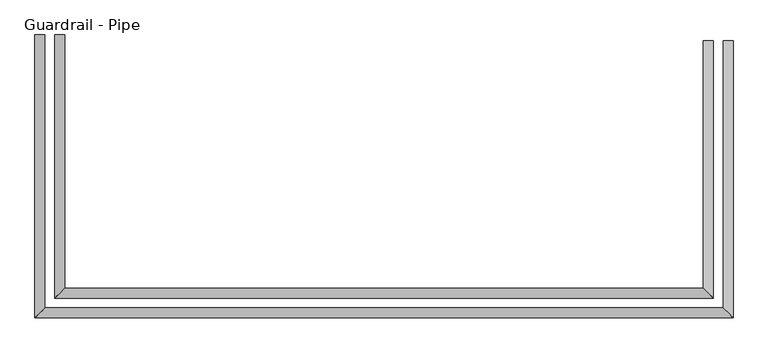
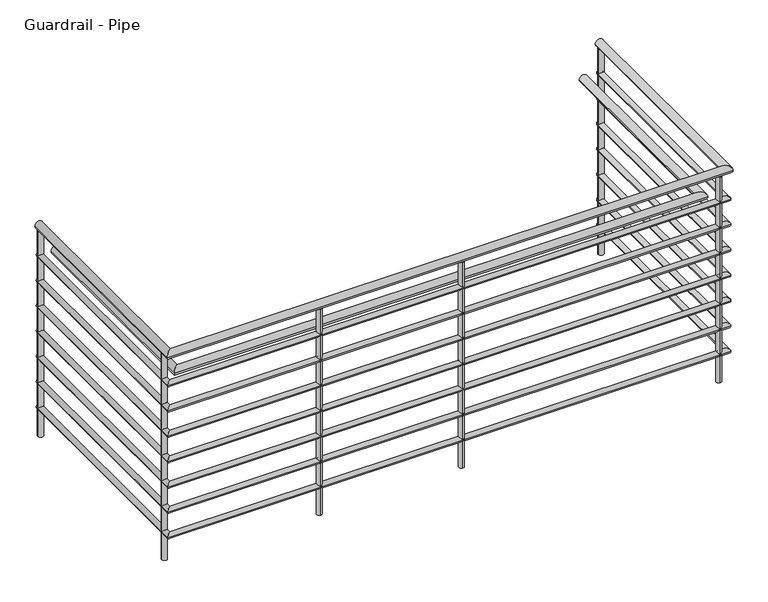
"""IFC4 building model written with IfcOpenShell, lengths in millimetres: railing geometry, Guardrail - Pipe."""

from ifc_helpers import new_model, si_unit, point, frame, frame_2d, origin, place, context, project, spatial, circle_curve, ellipse_curve, trimmed, segment, composite_curve, outline, extrude, source, transform, mapped, element, save
from ifc_brep_helpers import plane_surface, cylinder_surface, advanced_brep


def guardrail_pipe_96ed721d(model_context):
    return source(origin(), model_context, "Body", "SolidModel", [
        advanced_brep(
        [(-3673.2939612, -6967.115357, 8972.55), (-3635.1939612, -6967.115357, 8972.55), (-3673.2939612, -8052.965357, 8972.55), (-3635.1939612, -8014.865357, 8972.55), (-993.5939612, -8052.965357, 8972.55), (-1031.6939612, -8014.865357, 8972.55), (-993.5939612, -6989.340357, 8972.55), (-1031.6939612, -6989.340357, 8972.55)],
        [
            (0, 1, circle_curve(frame((-3654.2439612, -6967.115357, 8972.55), z_axis=(0.0, 1.0, 0.0), x_axis=(1.0, 0.0, 0.0)), 19.05)),
            (1, 0, circle_curve(frame((-3654.2439612, -6967.115357, 8972.55), z_axis=(0.0, 1.0, 0.0), x_axis=(1.0, 0.0, 0.0)), 19.05)),
            (0, 2),
            (2, 3, ellipse_curve(frame((-3654.2439612, -8033.915357, 8972.55), z_axis=(-0.7071067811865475, 0.7071067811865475, 0.0), x_axis=(0.7071067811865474, 0.7071067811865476, 0.0)), 26.9407684, 19.05)),
            (3, 1),
            (3, 2, ellipse_curve(frame((-3654.2439612, -8033.915357, 8972.55), z_axis=(-0.7071067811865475, 0.7071067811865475, 0.0), x_axis=(0.7071067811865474, 0.7071067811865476, 0.0)), 26.9407684, 19.05)),
            (2, 4),
            (4, 5, ellipse_curve(frame((-1012.6439612, -8033.915357, 8972.55), z_axis=(-0.7071067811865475, -0.7071067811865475, 0.0), x_axis=(-0.7071067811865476, 0.7071067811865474, 0.0)), 26.9407684, 19.05)),
            (5, 3),
            (5, 4, ellipse_curve(frame((-1012.6439612, -8033.915357, 8972.55), z_axis=(-0.7071067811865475, -0.7071067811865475, 0.0), x_axis=(-0.7071067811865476, 0.7071067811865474, 0.0)), 26.9407684, 19.05)),
            (6, 7, circle_curve(frame((-1012.6439612, -6989.340357, 8972.55), z_axis=(0.0, 1.0, 0.0), x_axis=(-1.0, 0.0, 0.0)), 19.05)),
            (7, 6, circle_curve(frame((-1012.6439612, -6989.340357, 8972.55), z_axis=(0.0, 1.0, 0.0), x_axis=(-1.0, 0.0, 0.0)), 19.05)),
            (4, 6),
            (7, 5),
        ],
        [
            plane_surface(frame((-3654.2439612, -6967.115357, 8991.6), z_axis=(0.0, 1.0, 0.0), x_axis=(0.0, 0.0, -1.0))),
            cylinder_surface(frame((-3654.2439612, -6967.115357, 8972.55), z_axis=(0.0, 1.0, 0.0), x_axis=(1.0, 0.0, 0.0)), 19.05),
            cylinder_surface(frame((-3654.2439612, -8033.915357, 8972.55), z_axis=(-1.0, 0.0, 0.0), x_axis=(0.0, 1.0, 0.0)), 19.05),
            plane_surface(frame((-1012.6439612, -6989.340357, 8991.6), z_axis=(0.0, 1.0, 0.0), x_axis=(0.0, 0.0, 1.0))),
            cylinder_surface(frame((-1012.6439612, -8033.915357, 8972.55), z_axis=(0.0, -1.0, 0.0), x_axis=(-1.0, 0.0, 0.0)), 19.05),
        ],
        [
            (0, [[1, 2]]),
            (1, [[-1, 3, 4, 5]]),
            (1, [[-2, -5, 6, -3]]),
            (2, [[-4, 7, 8, 9]]),
            (2, [[-6, -9, 10, -7]]),
            (3, [[11, 12]]),
            (4, [[-8, 13, -12, 14]]),
            (4, [[-10, -14, -11, -13]]),
        ],
    ),
        advanced_brep(
        [(-3666.9439612, -6967.115357, 8826.5), (-3641.5439612, -6967.115357, 8826.5), (-3666.9439612, -8046.615357, 8826.5), (-3641.5439612, -8021.215357, 8826.5), (-999.9439612, -8046.615357, 8826.5), (-1025.3439612, -8021.215357, 8826.5), (-999.9439612, -6989.340357, 8826.5), (-1025.3439612, -6989.340357, 8826.5)],
        [
            (0, 1, circle_curve(frame((-3654.2439612, -6967.115357, 8826.5), z_axis=(0.0, 1.0, 0.0), x_axis=(1.0, 0.0, 0.0)), 12.7)),
            (1, 0, circle_curve(frame((-3654.2439612, -6967.115357, 8826.5), z_axis=(0.0, 1.0, 0.0), x_axis=(1.0, 0.0, 0.0)), 12.7)),
            (0, 2),
            (2, 3, ellipse_curve(frame((-3654.2439612, -8033.915357, 8826.5), z_axis=(-0.7071067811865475, 0.7071067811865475, 0.0), x_axis=(0.7071067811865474, 0.7071067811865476, 0.0)), 17.9605122, 12.7)),
            (3, 1),
            (3, 2, ellipse_curve(frame((-3654.2439612, -8033.915357, 8826.5), z_axis=(-0.7071067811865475, 0.7071067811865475, 0.0), x_axis=(0.7071067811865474, 0.7071067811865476, 0.0)), 17.9605122, 12.7)),
            (2, 4),
            (4, 5, ellipse_curve(frame((-1012.6439612, -8033.915357, 8826.5), z_axis=(-0.7071067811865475, -0.7071067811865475, 0.0), x_axis=(-0.7071067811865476, 0.7071067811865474, 0.0)), 17.9605122, 12.7)),
            (5, 3),
            (5, 4, ellipse_curve(frame((-1012.6439612, -8033.915357, 8826.5), z_axis=(-0.7071067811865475, -0.7071067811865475, 0.0), x_axis=(-0.7071067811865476, 0.7071067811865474, 0.0)), 17.9605122, 12.7)),
            (6, 7, circle_curve(frame((-1012.6439612, -6989.340357, 8826.5), z_axis=(0.0, 1.0, 0.0), x_axis=(-1.0, 0.0, 0.0)), 12.7)),
            (7, 6, circle_curve(frame((-1012.6439612, -6989.340357, 8826.5), z_axis=(0.0, 1.0, 0.0), x_axis=(-1.0, 0.0, 0.0)), 12.7)),
            (4, 6),
            (7, 5),
        ],
        [
            plane_surface(frame((-3654.2439612, -6967.115357, 8839.2), z_axis=(0.0, 1.0, 0.0), x_axis=(0.0, 0.0, -1.0))),
            cylinder_surface(frame((-3654.2439612, -6967.115357, 8826.5), z_axis=(0.0, 1.0, 0.0), x_axis=(1.0, 0.0, 0.0)), 12.7),
            cylinder_surface(frame((-3654.2439612, -8033.915357, 8826.5), z_axis=(-1.0, 0.0, 0.0), x_axis=(0.0, 1.0, 0.0)), 12.7),
            plane_surface(frame((-1012.6439612, -6989.340357, 8839.2), z_axis=(0.0, 1.0, 0.0), x_axis=(0.0, 0.0, 1.0))),
            cylinder_surface(frame((-1012.6439612, -8033.915357, 8826.5), z_axis=(0.0, -1.0, 0.0), x_axis=(-1.0, 0.0, 0.0)), 12.7),
        ],
        [
            (0, [[1, 2]]),
            (1, [[-1, 3, 4, 5]]),
            (1, [[-2, -5, 6, -3]]),
            (2, [[-4, 7, 8, 9]]),
            (2, [[-6, -9, 10, -7]]),
            (3, [[11, 12]]),
            (4, [[-8, 13, -12, 14]]),
            (4, [[-10, -14, -11, -13]]),
        ],
    ),
        advanced_brep(
        [(-3597.0939612, -6967.115357, 8820.15), (-3558.9939612, -6967.115357, 8820.15), (-3597.0939612, -7976.765357, 8820.15), (-3558.9939612, -7938.665357, 8820.15), (-1069.7939612, -7976.765357, 8820.15), (-1107.8939612, -7938.665357, 8820.15), (-1069.7939612, -6989.340357, 8820.15), (-1107.8939612, -6989.340357, 8820.15)],
        [
            (0, 1, circle_curve(frame((-3578.0439612, -6967.115357, 8820.15), z_axis=(0.0, 1.0, 0.0), x_axis=(1.0, 0.0, 0.0)), 19.05)),
            (1, 0, circle_curve(frame((-3578.0439612, -6967.115357, 8820.15), z_axis=(0.0, 1.0, 0.0), x_axis=(1.0, 0.0, 0.0)), 19.05)),
            (0, 2),
            (2, 3, ellipse_curve(frame((-3578.0439612, -7957.715357, 8820.15), z_axis=(-0.7071067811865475, 0.7071067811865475, 0.0), x_axis=(0.7071067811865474, 0.7071067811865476, 0.0)), 26.9407684, 19.05)),
            (3, 1),
            (3, 2, ellipse_curve(frame((-3578.0439612, -7957.715357, 8820.15), z_axis=(-0.7071067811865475, 0.7071067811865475, 0.0), x_axis=(0.7071067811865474, 0.7071067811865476, 0.0)), 26.9407684, 19.05)),
            (2, 4),
            (4, 5, ellipse_curve(frame((-1088.8439612, -7957.715357, 8820.15), z_axis=(-0.7071067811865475, -0.7071067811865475, 0.0), x_axis=(-0.7071067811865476, 0.7071067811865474, 0.0)), 26.9407684, 19.05)),
            (5, 3),
            (5, 4, ellipse_curve(frame((-1088.8439612, -7957.715357, 8820.15), z_axis=(-0.7071067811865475, -0.7071067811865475, 0.0), x_axis=(-0.7071067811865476, 0.7071067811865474, 0.0)), 26.9407684, 19.05)),
            (6, 7, circle_curve(frame((-1088.8439612, -6989.340357, 8820.15), z_axis=(0.0, 1.0, 0.0), x_axis=(-1.0, 0.0, 0.0)), 19.05)),
            (7, 6, circle_curve(frame((-1088.8439612, -6989.340357, 8820.15), z_axis=(0.0, 1.0, 0.0), x_axis=(-1.0, 0.0, 0.0)), 19.05)),
            (4, 6),
            (7, 5),
        ],
        [
            plane_surface(frame((-3578.0439612, -6967.115357, 8839.2), z_axis=(0.0, 1.0, 0.0), x_axis=(0.0, 0.0, -1.0))),
            cylinder_surface(frame((-3578.0439612, -6967.115357, 8820.15), z_axis=(0.0, 1.0, 0.0), x_axis=(1.0, 0.0, 0.0)), 19.05),
            cylinder_surface(frame((-3578.0439612, -7957.715357, 8820.15), z_axis=(-1.0, 0.0, 0.0), x_axis=(0.0, 1.0, 0.0)), 19.05),
            plane_surface(frame((-1088.8439612, -6989.340357, 8839.2), z_axis=(0.0, 1.0, 0.0), x_axis=(0.0, 0.0, 1.0))),
            cylinder_surface(frame((-1088.8439612, -7957.715357, 8820.15), z_axis=(0.0, -1.0, 0.0), x_axis=(-1.0, 0.0, 0.0)), 19.05),
        ],
        [
            (0, [[1, 2]]),
            (1, [[-1, 3, 4, 5]]),
            (1, [[-2, -5, 6, -3]]),
            (2, [[-4, 7, 8, 9]]),
            (2, [[-6, -9, 10, -7]]),
            (3, [[11, 12]]),
            (4, [[-8, 13, -12, 14]]),
            (4, [[-10, -14, -11, -13]]),
        ],
    ),
        advanced_brep(
        [(-3666.9439612, -6967.115357, 8699.5), (-3641.5439612, -6967.115357, 8699.5), (-3666.9439612, -8046.615357, 8699.5), (-3641.5439612, -8021.215357, 8699.5), (-999.9439612, -8046.615357, 8699.5), (-1025.3439612, -8021.215357, 8699.5), (-999.9439612, -6989.340357, 8699.5), (-1025.3439612, -6989.340357, 8699.5)],
        [
            (0, 1, circle_curve(frame((-3654.2439612, -6967.115357, 8699.5), z_axis=(0.0, 1.0, 0.0), x_axis=(1.0, 0.0, 0.0)), 12.7)),
            (1, 0, circle_curve(frame((-3654.2439612, -6967.115357, 8699.5), z_axis=(0.0, 1.0, 0.0), x_axis=(1.0, 0.0, 0.0)), 12.7)),
            (0, 2),
            (2, 3, ellipse_curve(frame((-3654.2439612, -8033.915357, 8699.5), z_axis=(-0.7071067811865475, 0.7071067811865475, 0.0), x_axis=(0.7071067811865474, 0.7071067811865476, 0.0)), 17.9605122, 12.7)),
            (3, 1),
            (3, 2, ellipse_curve(frame((-3654.2439612, -8033.915357, 8699.5), z_axis=(-0.7071067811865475, 0.7071067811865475, 0.0), x_axis=(0.7071067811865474, 0.7071067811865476, 0.0)), 17.9605122, 12.7)),
            (2, 4),
            (4, 5, ellipse_curve(frame((-1012.6439612, -8033.915357, 8699.5), z_axis=(-0.7071067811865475, -0.7071067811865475, 0.0), x_axis=(-0.7071067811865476, 0.7071067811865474, 0.0)), 17.9605122, 12.7)),
            (5, 3),
            (5, 4, ellipse_curve(frame((-1012.6439612, -8033.915357, 8699.5), z_axis=(-0.7071067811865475, -0.7071067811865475, 0.0), x_axis=(-0.7071067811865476, 0.7071067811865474, 0.0)), 17.9605122, 12.7)),
            (6, 7, circle_curve(frame((-1012.6439612, -6989.340357, 8699.5), z_axis=(0.0, 1.0, 0.0), x_axis=(-1.0, 0.0, 0.0)), 12.7)),
            (7, 6, circle_curve(frame((-1012.6439612, -6989.340357, 8699.5), z_axis=(0.0, 1.0, 0.0), x_axis=(-1.0, 0.0, 0.0)), 12.7)),
            (4, 6),
            (7, 5),
        ],
        [
            plane_surface(frame((-3654.2439612, -6967.115357, 8712.2), z_axis=(0.0, 1.0, 0.0), x_axis=(0.0, 0.0, -1.0))),
            cylinder_surface(frame((-3654.2439612, -6967.115357, 8699.5), z_axis=(0.0, 1.0, 0.0), x_axis=(1.0, 0.0, 0.0)), 12.7),
            cylinder_surface(frame((-3654.2439612, -8033.915357, 8699.5), z_axis=(-1.0, 0.0, 0.0), x_axis=(0.0, 1.0, 0.0)), 12.7),
            plane_surface(frame((-1012.6439612, -6989.340357, 8712.2), z_axis=(0.0, 1.0, 0.0), x_axis=(0.0, 0.0, 1.0))),
            cylinder_surface(frame((-1012.6439612, -8033.915357, 8699.5), z_axis=(0.0, -1.0, 0.0), x_axis=(-1.0, 0.0, 0.0)), 12.7),
        ],
        [
            (0, [[1, 2]]),
            (1, [[-1, 3, 4, 5]]),
            (1, [[-2, -5, 6, -3]]),
            (2, [[-4, 7, 8, 9]]),
            (2, [[-6, -9, 10, -7]]),
            (3, [[11, 12]]),
            (4, [[-8, 13, -12, 14]]),
            (4, [[-10, -14, -11, -13]]),
        ],
    ),
        advanced_brep(
        [(-3666.9439612, -6967.115357, 8572.5), (-3641.5439612, -6967.115357, 8572.5), (-3666.9439612, -8046.615357, 8572.5), (-3641.5439612, -8021.215357, 8572.5), (-999.9439612, -8046.615357, 8572.5), (-1025.3439612, -8021.215357, 8572.5), (-999.9439612, -6989.340357, 8572.5), (-1025.3439612, -6989.340357, 8572.5)],
        [
            (0, 1, circle_curve(frame((-3654.2439612, -6967.115357, 8572.5), z_axis=(0.0, 1.0, 0.0), x_axis=(1.0, 0.0, 0.0)), 12.7)),
            (1, 0, circle_curve(frame((-3654.2439612, -6967.115357, 8572.5), z_axis=(0.0, 1.0, 0.0), x_axis=(1.0, 0.0, 0.0)), 12.7)),
            (0, 2),
            (2, 3, ellipse_curve(frame((-3654.2439612, -8033.915357, 8572.5), z_axis=(-0.7071067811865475, 0.7071067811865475, 0.0), x_axis=(0.7071067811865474, 0.7071067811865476, 0.0)), 17.9605122, 12.7)),
            (3, 1),
            (3, 2, ellipse_curve(frame((-3654.2439612, -8033.915357, 8572.5), z_axis=(-0.7071067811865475, 0.7071067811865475, 0.0), x_axis=(0.7071067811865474, 0.7071067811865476, 0.0)), 17.9605122, 12.7)),
            (2, 4),
            (4, 5, ellipse_curve(frame((-1012.6439612, -8033.915357, 8572.5), z_axis=(-0.7071067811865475, -0.7071067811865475, 0.0), x_axis=(-0.7071067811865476, 0.7071067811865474, 0.0)), 17.9605122, 12.7)),
            (5, 3),
            (5, 4, ellipse_curve(frame((-1012.6439612, -8033.915357, 8572.5), z_axis=(-0.7071067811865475, -0.7071067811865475, 0.0), x_axis=(-0.7071067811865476, 0.7071067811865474, 0.0)), 17.9605122, 12.7)),
            (6, 7, circle_curve(frame((-1012.6439612, -6989.340357, 8572.5), z_axis=(0.0, 1.0, 0.0), x_axis=(-1.0, 0.0, 0.0)), 12.7)),
            (7, 6, circle_curve(frame((-1012.6439612, -6989.340357, 8572.5), z_axis=(0.0, 1.0, 0.0), x_axis=(-1.0, 0.0, 0.0)), 12.7)),
            (4, 6),
            (7, 5),
        ],
        [
            plane_surface(frame((-3654.2439612, -6967.115357, 8585.2), z_axis=(0.0, 1.0, 0.0), x_axis=(0.0, 0.0, -1.0))),
            cylinder_surface(frame((-3654.2439612, -6967.115357, 8572.5), z_axis=(0.0, 1.0, 0.0), x_axis=(1.0, 0.0, 0.0)), 12.7),
            cylinder_surface(frame((-3654.2439612, -8033.915357, 8572.5), z_axis=(-1.0, 0.0, 0.0), x_axis=(0.0, 1.0, 0.0)), 12.7),
            plane_surface(frame((-1012.6439612, -6989.340357, 8585.2), z_axis=(0.0, 1.0, 0.0), x_axis=(0.0, 0.0, 1.0))),
            cylinder_surface(frame((-1012.6439612, -8033.915357, 8572.5), z_axis=(0.0, -1.0, 0.0), x_axis=(-1.0, 0.0, 0.0)), 12.7),
        ],
        [
            (0, [[1, 2]]),
            (1, [[-1, 3, 4, 5]]),
            (1, [[-2, -5, 6, -3]]),
            (2, [[-4, 7, 8, 9]]),
            (2, [[-6, -9, 10, -7]]),
            (3, [[11, 12]]),
            (4, [[-8, 13, -12, 14]]),
            (4, [[-10, -14, -11, -13]]),
        ],
    ),
        advanced_brep(
        [(-3666.9439612, -6967.115357, 8445.5), (-3641.5439612, -6967.115357, 8445.5), (-3666.9439612, -8046.615357, 8445.5), (-3641.5439612, -8021.215357, 8445.5), (-999.9439612, -8046.615357, 8445.5), (-1025.3439612, -8021.215357, 8445.5), (-999.9439612, -6989.340357, 8445.5), (-1025.3439612, -6989.340357, 8445.5)],
        [
            (0, 1, circle_curve(frame((-3654.2439612, -6967.115357, 8445.5), z_axis=(0.0, 1.0, 0.0), x_axis=(1.0, 0.0, 0.0)), 12.7)),
            (1, 0, circle_curve(frame((-3654.2439612, -6967.115357, 8445.5), z_axis=(0.0, 1.0, 0.0), x_axis=(1.0, 0.0, 0.0)), 12.7)),
            (0, 2),
            (2, 3, ellipse_curve(frame((-3654.2439612, -8033.915357, 8445.5), z_axis=(-0.7071067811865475, 0.7071067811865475, 0.0), x_axis=(0.7071067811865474, 0.7071067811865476, 0.0)), 17.9605122, 12.7)),
            (3, 1),
            (3, 2, ellipse_curve(frame((-3654.2439612, -8033.915357, 8445.5), z_axis=(-0.7071067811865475, 0.7071067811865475, 0.0), x_axis=(0.7071067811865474, 0.7071067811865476, 0.0)), 17.9605122, 12.7)),
            (2, 4),
            (4, 5, ellipse_curve(frame((-1012.6439612, -8033.915357, 8445.5), z_axis=(-0.7071067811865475, -0.7071067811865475, 0.0), x_axis=(-0.7071067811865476, 0.7071067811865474, 0.0)), 17.9605122, 12.7)),
            (5, 3),
            (5, 4, ellipse_curve(frame((-1012.6439612, -8033.915357, 8445.5), z_axis=(-0.7071067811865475, -0.7071067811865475, 0.0), x_axis=(-0.7071067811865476, 0.7071067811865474, 0.0)), 17.9605122, 12.7)),
            (6, 7, circle_curve(frame((-1012.6439612, -6989.340357, 8445.5), z_axis=(0.0, 1.0, 0.0), x_axis=(-1.0, 0.0, 0.0)), 12.7)),
            (7, 6, circle_curve(frame((-1012.6439612, -6989.340357, 8445.5), z_axis=(0.0, 1.0, 0.0), x_axis=(-1.0, 0.0, 0.0)), 12.7)),
            (4, 6),
            (7, 5),
        ],
        [
            plane_surface(frame((-3654.2439612, -6967.115357, 8458.2), z_axis=(0.0, 1.0, 0.0), x_axis=(0.0, 0.0, -1.0))),
            cylinder_surface(frame((-3654.2439612, -6967.115357, 8445.5), z_axis=(0.0, 1.0, 0.0), x_axis=(1.0, 0.0, 0.0)), 12.7),
            cylinder_surface(frame((-3654.2439612, -8033.915357, 8445.5), z_axis=(-1.0, 0.0, 0.0), x_axis=(0.0, 1.0, 0.0)), 12.7),
            plane_surface(frame((-1012.6439612, -6989.340357, 8458.2), z_axis=(0.0, 1.0, 0.0), x_axis=(0.0, 0.0, 1.0))),
            cylinder_surface(frame((-1012.6439612, -8033.915357, 8445.5), z_axis=(0.0, -1.0, 0.0), x_axis=(-1.0, 0.0, 0.0)), 12.7),
        ],
        [
            (0, [[1, 2]]),
            (1, [[-1, 3, 4, 5]]),
            (1, [[-2, -5, 6, -3]]),
            (2, [[-4, 7, 8, 9]]),
            (2, [[-6, -9, 10, -7]]),
            (3, [[11, 12]]),
            (4, [[-8, 13, -12, 14]]),
            (4, [[-10, -14, -11, -13]]),
        ],
    ),
        advanced_brep(
        [(-3666.9439612, -6967.115357, 8318.5), (-3641.5439612, -6967.115357, 8318.5), (-3666.9439612, -8046.615357, 8318.5), (-3641.5439612, -8021.215357, 8318.5), (-999.9439612, -8046.615357, 8318.5), (-1025.3439612, -8021.215357, 8318.5), (-999.9439612, -6989.340357, 8318.5), (-1025.3439612, -6989.340357, 8318.5)],
        [
            (0, 1, circle_curve(frame((-3654.2439612, -6967.115357, 8318.5), z_axis=(0.0, 1.0, 0.0), x_axis=(1.0, 0.0, 0.0)), 12.7)),
            (1, 0, circle_curve(frame((-3654.2439612, -6967.115357, 8318.5), z_axis=(0.0, 1.0, 0.0), x_axis=(1.0, 0.0, 0.0)), 12.7)),
            (0, 2),
            (2, 3, ellipse_curve(frame((-3654.2439612, -8033.915357, 8318.5), z_axis=(-0.7071067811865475, 0.7071067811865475, 0.0), x_axis=(0.7071067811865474, 0.7071067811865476, 0.0)), 17.9605122, 12.7)),
            (3, 1),
            (3, 2, ellipse_curve(frame((-3654.2439612, -8033.915357, 8318.5), z_axis=(-0.7071067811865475, 0.7071067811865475, 0.0), x_axis=(0.7071067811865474, 0.7071067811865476, 0.0)), 17.9605122, 12.7)),
            (2, 4),
            (4, 5, ellipse_curve(frame((-1012.6439612, -8033.915357, 8318.5), z_axis=(-0.7071067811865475, -0.7071067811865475, 0.0), x_axis=(-0.7071067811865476, 0.7071067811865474, 0.0)), 17.9605122, 12.7)),
            (5, 3),
            (5, 4, ellipse_curve(frame((-1012.6439612, -8033.915357, 8318.5), z_axis=(-0.7071067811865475, -0.7071067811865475, 0.0), x_axis=(-0.7071067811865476, 0.7071067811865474, 0.0)), 17.9605122, 12.7)),
            (6, 7, circle_curve(frame((-1012.6439612, -6989.340357, 8318.5), z_axis=(0.0, 1.0, 0.0), x_axis=(-1.0, 0.0, 0.0)), 12.7)),
            (7, 6, circle_curve(frame((-1012.6439612, -6989.340357, 8318.5), z_axis=(0.0, 1.0, 0.0), x_axis=(-1.0, 0.0, 0.0)), 12.7)),
            (4, 6),
            (7, 5),
        ],
        [
            plane_surface(frame((-3654.2439612, -6967.115357, 8331.2), z_axis=(0.0, 1.0, 0.0), x_axis=(0.0, 0.0, -1.0))),
            cylinder_surface(frame((-3654.2439612, -6967.115357, 8318.5), z_axis=(0.0, 1.0, 0.0), x_axis=(1.0, 0.0, 0.0)), 12.7),
            cylinder_surface(frame((-3654.2439612, -8033.915357, 8318.5), z_axis=(-1.0, 0.0, 0.0), x_axis=(0.0, 1.0, 0.0)), 12.7),
            plane_surface(frame((-1012.6439612, -6989.340357, 8331.2), z_axis=(0.0, 1.0, 0.0), x_axis=(0.0, 0.0, 1.0))),
            cylinder_surface(frame((-1012.6439612, -8033.915357, 8318.5), z_axis=(0.0, -1.0, 0.0), x_axis=(-1.0, 0.0, 0.0)), 12.7),
        ],
        [
            (0, [[1, 2]]),
            (1, [[-1, 3, 4, 5]]),
            (1, [[-2, -5, 6, -3]]),
            (2, [[-4, 7, 8, 9]]),
            (2, [[-6, -9, 10, -7]]),
            (3, [[11, 12]]),
            (4, [[-8, 13, -12, 14]]),
            (4, [[-10, -14, -11, -13]]),
        ],
    ),
        advanced_brep(
        [(-3666.9439612, -6967.115357, 8191.5), (-3641.5439612, -6967.115357, 8191.5), (-3666.9439612, -8046.615357, 8191.5), (-3641.5439612, -8021.215357, 8191.5), (-999.9439612, -8046.615357, 8191.5), (-1025.3439612, -8021.215357, 8191.5), (-999.9439612, -6989.340357, 8191.5), (-1025.3439612, -6989.340357, 8191.5)],
        [
            (0, 1, circle_curve(frame((-3654.2439612, -6967.115357, 8191.5), z_axis=(0.0, 1.0, 0.0), x_axis=(1.0, 0.0, 0.0)), 12.7)),
            (1, 0, circle_curve(frame((-3654.2439612, -6967.115357, 8191.5), z_axis=(0.0, 1.0, 0.0), x_axis=(1.0, 0.0, 0.0)), 12.7)),
            (0, 2),
            (2, 3, ellipse_curve(frame((-3654.2439612, -8033.915357, 8191.5), z_axis=(-0.7071067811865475, 0.7071067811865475, 0.0), x_axis=(0.7071067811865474, 0.7071067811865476, 0.0)), 17.9605122, 12.7)),
            (3, 1),
            (3, 2, ellipse_curve(frame((-3654.2439612, -8033.915357, 8191.5), z_axis=(-0.7071067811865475, 0.7071067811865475, 0.0), x_axis=(0.7071067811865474, 0.7071067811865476, 0.0)), 17.9605122, 12.7)),
            (2, 4),
            (4, 5, ellipse_curve(frame((-1012.6439612, -8033.915357, 8191.5), z_axis=(-0.7071067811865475, -0.7071067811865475, 0.0), x_axis=(-0.7071067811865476, 0.7071067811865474, 0.0)), 17.9605122, 12.7)),
            (5, 3),
            (5, 4, ellipse_curve(frame((-1012.6439612, -8033.915357, 8191.5), z_axis=(-0.7071067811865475, -0.7071067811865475, 0.0), x_axis=(-0.7071067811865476, 0.7071067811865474, 0.0)), 17.9605122, 12.7)),
            (6, 7, circle_curve(frame((-1012.6439612, -6989.340357, 8191.5), z_axis=(0.0, 1.0, 0.0), x_axis=(-1.0, 0.0, 0.0)), 12.7)),
            (7, 6, circle_curve(frame((-1012.6439612, -6989.340357, 8191.5), z_axis=(0.0, 1.0, 0.0), x_axis=(-1.0, 0.0, 0.0)), 12.7)),
            (4, 6),
            (7, 5),
        ],
        [
            plane_surface(frame((-3654.2439612, -6967.115357, 8204.2), z_axis=(0.0, 1.0, 0.0), x_axis=(0.0, 0.0, -1.0))),
            cylinder_surface(frame((-3654.2439612, -6967.115357, 8191.5), z_axis=(0.0, 1.0, 0.0), x_axis=(1.0, 0.0, 0.0)), 12.7),
            cylinder_surface(frame((-3654.2439612, -8033.915357, 8191.5), z_axis=(-1.0, 0.0, 0.0), x_axis=(0.0, 1.0, 0.0)), 12.7),
            plane_surface(frame((-1012.6439612, -6989.340357, 8204.2), z_axis=(0.0, 1.0, 0.0), x_axis=(0.0, 0.0, 1.0))),
            cylinder_surface(frame((-1012.6439612, -8033.915357, 8191.5), z_axis=(0.0, -1.0, 0.0), x_axis=(-1.0, 0.0, 0.0)), 12.7),
        ],
        [
            (0, [[1, 2]]),
            (1, [[-1, 3, 4, 5]]),
            (1, [[-2, -5, 6, -3]]),
            (2, [[-4, 7, 8, 9]]),
            (2, [[-6, -9, 10, -7]]),
            (3, [[11, 12]]),
            (4, [[-8, 13, -12, 14]]),
            (4, [[-10, -14, -11, -13]]),
        ],
    ),
        advanced_brep(
        [(-3666.9439612, -6967.115357, 8064.5), (-3641.5439612, -6967.115357, 8064.5), (-3666.9439612, -8046.615357, 8064.5), (-3641.5439612, -8021.215357, 8064.5), (-999.9439612, -8046.615357, 8064.5), (-1025.3439612, -8021.215357, 8064.5), (-999.9439612, -6989.340357, 8064.5), (-1025.3439612, -6989.340357, 8064.5)],
        [
            (0, 1, circle_curve(frame((-3654.2439612, -6967.115357, 8064.5), z_axis=(0.0, 1.0, 0.0), x_axis=(1.0, 0.0, 0.0)), 12.7)),
            (1, 0, circle_curve(frame((-3654.2439612, -6967.115357, 8064.5), z_axis=(0.0, 1.0, 0.0), x_axis=(1.0, 0.0, 0.0)), 12.7)),
            (0, 2),
            (2, 3, ellipse_curve(frame((-3654.2439612, -8033.915357, 8064.5), z_axis=(-0.7071067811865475, 0.7071067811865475, 0.0), x_axis=(0.7071067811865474, 0.7071067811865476, 0.0)), 17.9605122, 12.7)),
            (3, 1),
            (3, 2, ellipse_curve(frame((-3654.2439612, -8033.915357, 8064.5), z_axis=(-0.7071067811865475, 0.7071067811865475, 0.0), x_axis=(0.7071067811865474, 0.7071067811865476, 0.0)), 17.9605122, 12.7)),
            (2, 4),
            (4, 5, ellipse_curve(frame((-1012.6439612, -8033.915357, 8064.5), z_axis=(-0.7071067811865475, -0.7071067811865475, 0.0), x_axis=(-0.7071067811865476, 0.7071067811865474, 0.0)), 17.9605122, 12.7)),
            (5, 3),
            (5, 4, ellipse_curve(frame((-1012.6439612, -8033.915357, 8064.5), z_axis=(-0.7071067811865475, -0.7071067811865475, 0.0), x_axis=(-0.7071067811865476, 0.7071067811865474, 0.0)), 17.9605122, 12.7)),
            (6, 7, circle_curve(frame((-1012.6439612, -6989.340357, 8064.5), z_axis=(0.0, 1.0, 0.0), x_axis=(-1.0, 0.0, 0.0)), 12.7)),
            (7, 6, circle_curve(frame((-1012.6439612, -6989.340357, 8064.5), z_axis=(0.0, 1.0, 0.0), x_axis=(-1.0, 0.0, 0.0)), 12.7)),
            (4, 6),
            (7, 5),
        ],
        [
            plane_surface(frame((-3654.2439612, -6967.115357, 8077.2), z_axis=(0.0, 1.0, 0.0), x_axis=(0.0, 0.0, -1.0))),
            cylinder_surface(frame((-3654.2439612, -6967.115357, 8064.5), z_axis=(0.0, 1.0, 0.0), x_axis=(1.0, 0.0, 0.0)), 12.7),
            cylinder_surface(frame((-3654.2439612, -8033.915357, 8064.5), z_axis=(-1.0, 0.0, 0.0), x_axis=(0.0, 1.0, 0.0)), 12.7),
            plane_surface(frame((-1012.6439612, -6989.340357, 8077.2), z_axis=(0.0, 1.0, 0.0), x_axis=(0.0, 0.0, 1.0))),
            cylinder_surface(frame((-1012.6439612, -8033.915357, 8064.5), z_axis=(0.0, -1.0, 0.0), x_axis=(-1.0, 0.0, 0.0)), 12.7),
        ],
        [
            (0, [[1, 2]]),
            (1, [[-1, 3, 4, 5]]),
            (1, [[-2, -5, 6, -3]]),
            (2, [[-4, 7, 8, 9]]),
            (2, [[-6, -9, 10, -7]]),
            (3, [[11, 12]]),
            (4, [[-8, 13, -12, 14]]),
            (4, [[-10, -14, -11, -13]]),
        ],
    ),
        extrude(outline(composite_curve([segment(trimmed(circle_curve(frame_2d((-1012.6439612, -7001.7219415)), 12.7), [point((-999.9439612, -7001.7219415))], [point((-1025.3439612, -7001.7219415))], False, "CARTESIAN"), True, "CONTINUOUS"), segment(trimmed(circle_curve(frame_2d((-1012.6439612, -7001.7219415)), 12.7), [point((-1025.3439612, -7001.7219415))], [point((-999.9439612, -7001.7219415))], False, "CARTESIAN"), True, "CONTINUOUS")], self_intersect=False)), frame((0.0, 0.0, 7924.8), z_axis=(0.0, 0.0, 1.0), x_axis=(1.0, 0.0, 0.0)), (0.0, 0.0, 1.0), 1028.7),
        extrude(outline(composite_curve([segment(trimmed(circle_curve(frame_2d((-1050.4255457, -8033.915357)), 12.7), [point((-1050.4255457, -8046.615357))], [point((-1050.4255457, -8021.215357))], False, "CARTESIAN"), True, "CONTINUOUS"), segment(trimmed(circle_curve(frame_2d((-1050.4255457, -8033.915357)), 12.7), [point((-1050.4255457, -8021.215357))], [point((-1050.4255457, -8046.615357))], False, "CARTESIAN"), True, "CONTINUOUS")], self_intersect=False)), frame((0.0, 0.0, 7924.8), z_axis=(0.0, 0.0, 1.0), x_axis=(1.0, 0.0, 0.0)), (0.0, 0.0, 1.0), 1028.7),
        extrude(outline(composite_curve([segment(trimmed(circle_curve(frame_2d((-2269.6255457, -8033.915357)), 12.7), [point((-2269.6255457, -8046.615357))], [point((-2269.6255457, -8021.215357))], False, "CARTESIAN"), True, "CONTINUOUS"), segment(trimmed(circle_curve(frame_2d((-2269.6255457, -8033.915357)), 12.7), [point((-2269.6255457, -8021.215357))], [point((-2269.6255457, -8046.615357))], False, "CARTESIAN"), True, "CONTINUOUS")], self_intersect=False)), frame((0.0, 0.0, 7924.8), z_axis=(0.0, 0.0, 1.0), x_axis=(1.0, 0.0, 0.0)), (0.0, 0.0, 1.0), 1028.7),
        extrude(outline(composite_curve([segment(trimmed(circle_curve(frame_2d((-2943.0439612, -8033.915357)), 12.7), [point((-2943.0439612, -8046.615357))], [point((-2943.0439612, -8021.215357))], False, "CARTESIAN"), True, "CONTINUOUS"), segment(trimmed(circle_curve(frame_2d((-2943.0439612, -8033.915357)), 12.7), [point((-2943.0439612, -8021.215357))], [point((-2943.0439612, -8046.615357))], False, "CARTESIAN"), True, "CONTINUOUS")], self_intersect=False)), frame((0.0, 0.0, 7924.8), z_axis=(0.0, 0.0, 1.0), x_axis=(1.0, 0.0, 0.0)), (0.0, 0.0, 1.0), 1028.7),
        extrude(outline(composite_curve([segment(trimmed(circle_curve(frame_2d((-3654.2439612, -7996.1337726)), 12.7), [point((-3666.9439612, -7996.1337726))], [point((-3641.5439612, -7996.1337726))], False, "CARTESIAN"), True, "CONTINUOUS"), segment(trimmed(circle_curve(frame_2d((-3654.2439612, -7996.1337726)), 12.7), [point((-3641.5439612, -7996.1337726))], [point((-3666.9439612, -7996.1337726))], False, "CARTESIAN"), True, "CONTINUOUS")], self_intersect=False)), frame((0.0, 0.0, 7924.8), z_axis=(0.0, 0.0, 1.0), x_axis=(1.0, 0.0, 0.0)), (0.0, 0.0, 1.0), 1028.7),
        extrude(outline(composite_curve([segment(trimmed(circle_curve(frame_2d((-3654.2439612, -6979.4969415)), 12.7), [point((-3666.9439612, -6979.4969415))], [point((-3641.5439612, -6979.4969415))], False, "CARTESIAN"), True, "CONTINUOUS"), segment(trimmed(circle_curve(frame_2d((-3654.2439612, -6979.4969415)), 12.7), [point((-3641.5439612, -6979.4969415))], [point((-3666.9439612, -6979.4969415))], False, "CARTESIAN"), True, "CONTINUOUS")], self_intersect=False)), frame((0.0, 0.0, 7924.8), z_axis=(0.0, 0.0, 1.0), x_axis=(1.0, 0.0, 0.0)), (0.0, 0.0, 1.0), 1028.7),
    ])


if __name__ == "__main__":
    model = new_model("IFC4")
    model_context = context("Model", 3, world=origin())
    ifc_project = project(units=[si_unit("LENGTHUNIT", "METRE", prefix="MILLI")], contexts=[model_context])
    site = spatial("IfcSite", under=ifc_project)
    building = spatial("IfcBuilding", under=site)
    placement = place(None, origin())
    guardrail_pipe_shape = guardrail_pipe_96ed721d(model_context)
    element("IfcRailing", 1, ObjectType="Guardrail - Pipe", at=placement, inside=building, context=model_context, shape_type="MappedRepresentation", body=[
        mapped(guardrail_pipe_shape, transform((0.0, 0.0, 0.0), x_axis=(1.0, 0.0, 0.0), y_axis=(0.0, 1.0, 0.0), z_axis=(0.0, 0.0, 1.0))),
    ])
    save(model, "model.ifc")
